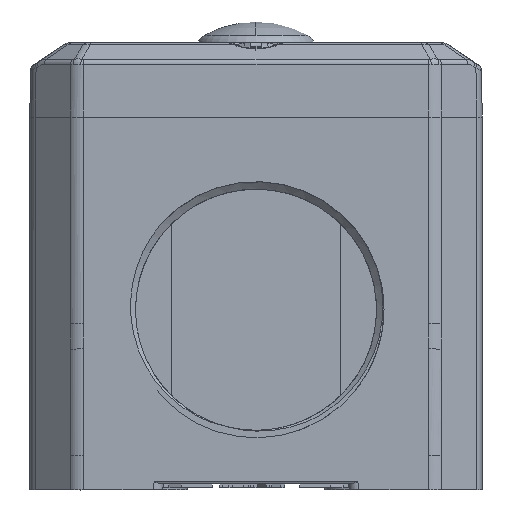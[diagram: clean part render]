
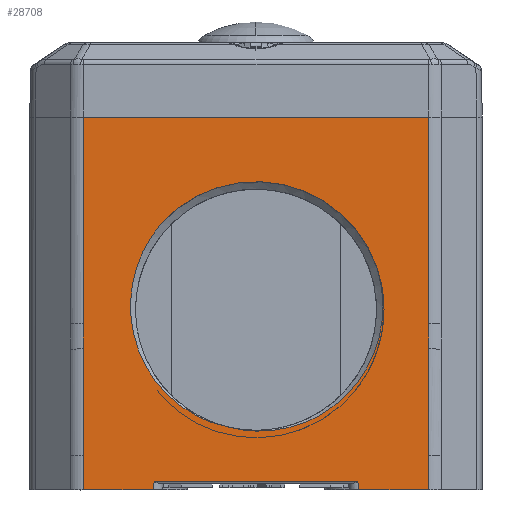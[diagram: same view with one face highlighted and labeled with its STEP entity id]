
A CAD part, front view. The second image highlights one B-rep face of the part: STEP entity #28708.
In plain terms, the highlighted planar face has unit normal (0, -1, 0).
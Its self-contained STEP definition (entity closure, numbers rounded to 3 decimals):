
#1551=DIRECTION('',(1.,0.,0.));
#1552=VECTOR('',#1551,5.626);
#1553=CARTESIAN_POINT('',(8.253,-66.5,-15.5));
#1554=LINE('',#1553,#1552);
#1600=DIRECTION('',(0.,0.,1.));
#1601=VECTOR('',#1600,2.763);
#1602=CARTESIAN_POINT('',(13.879,-66.5,-15.5));
#1603=LINE('',#1602,#1601);
#1604=DIRECTION('',(0.,0.,1.));
#1605=VECTOR('',#1604,8.626);
#1606=CARTESIAN_POINT('',(13.879,-66.5,
-12.737));
#1607=LINE('',#1606,#1605);
#1632=DIRECTION('',(-0.087,0.,0.996));
#1633=VECTOR('',#1632,0.703);
#1634=CARTESIAN_POINT('',(8.253,-66.5,-15.5));
#1635=LINE('',#1634,#1633);
#1636=DIRECTION('',(-0.087,0.,-0.996));
#1637=VECTOR('',#1636,0.703);
#1638=CARTESIAN_POINT('',(-8.192,-66.5,-14.8));
#1639=LINE('',#1638,#1637);
#1640=DIRECTION('',(0.,0.,1.));
#1641=VECTOR('',#1640,2.011);
#1642=CARTESIAN_POINT('',(-13.879,-66.5,
-4.111));
#1643=LINE('',#1642,#1641);
#1644=DIRECTION('',(0.,0.,1.));
#1645=VECTOR('',#1644,16.6);
#1646=CARTESIAN_POINT('',(-13.879,-66.5,
-2.1));
#1647=LINE('',#1646,#1645);
#1648=DIRECTION('',(1.,0.,0.));
#1649=VECTOR('',#1648,27.758);
#1650=CARTESIAN_POINT('',(-13.879,-66.5,
14.5));
#1651=LINE('',#1650,#1649);
#1652=DIRECTION('',(0.,0.,-1.));
#1653=VECTOR('',#1652,2.011);
#1654=CARTESIAN_POINT('',(13.879,-66.5,
-2.1));
#1655=LINE('',#1654,#1653);
#1656=CARTESIAN_POINT('',(0.,-66.5,-1.));
#1657=DIRECTION('',(0.,-1.,0.));
#1658=DIRECTION('',(0.953,0.,0.304));
#1659=AXIS2_PLACEMENT_3D('',#1656,#1657,#1658);
#4153=DIRECTION('',(0.,0.,1.));
#4154=VECTOR('',#4153,16.6);
#4155=CARTESIAN_POINT('',(13.879,-66.5,
-2.1));
#4156=LINE('',#4155,#4154);
#4212=DIRECTION('',(0.,0.,-1.));
#4213=VECTOR('',#4212,8.626);
#4214=CARTESIAN_POINT('',(-13.879,-66.5,
-4.111));
#4215=LINE('',#4214,#4213);
#4228=DIRECTION('',(0.,0.,-1.));
#4229=VECTOR('',#4228,2.763);
#4230=CARTESIAN_POINT('',(-13.879,-66.5,
-12.737));
#4231=LINE('',#4230,#4229);
#4246=DIRECTION('',(1.,0.,0.));
#4247=VECTOR('',#4246,5.626);
#4248=CARTESIAN_POINT('',(-13.879,-66.5,-15.5));
#4249=LINE('',#4248,#4247);
#12895=DIRECTION('',(1.,0.,0.));
#12896=VECTOR('',#12895,16.383);
#12897=CARTESIAN_POINT('',(-8.192,-66.5,-14.8));
#12898=LINE('',#12897,#12896);
#12899=CARTESIAN_POINT('',(8.192,-66.5,-14.8));
#18807=CARTESIAN_POINT('',(-2.065,-66.5,
-10.478));
#18808=CARTESIAN_POINT('',(-2.718,-66.5,
-10.355));
#18809=CARTESIAN_POINT('',(-4.009,-66.5,
-9.982));
#18810=CARTESIAN_POINT('',(-5.988,-66.5,
-8.901));
#18811=CARTESIAN_POINT('',(-7.681,-66.5,
-7.355));
#18812=CARTESIAN_POINT('',(-8.851,-66.5,
-5.694));
#18813=CARTESIAN_POINT('',(-9.7,-66.5,
-3.757));
#18814=CARTESIAN_POINT('',(-10.116,-66.5,
-1.703));
#18815=CARTESIAN_POINT('',(-10.101,-66.5,
0.354));
#18816=CARTESIAN_POINT('',(-9.714,-66.5,
2.261));
#18817=CARTESIAN_POINT('',(-8.911,-66.5,
4.19));
#18818=CARTESIAN_POINT('',(-8.103,-66.5,
5.369));
#18819=CARTESIAN_POINT('',(-7.619,-66.5,
5.931));
#18873=CARTESIAN_POINT('',(9.812,-66.5,
2.133));
#18874=CARTESIAN_POINT('',(10.009,-66.5,
1.45));
#18875=CARTESIAN_POINT('',(10.259,-66.5,
0.072));
#18876=CARTESIAN_POINT('',(10.199,-66.5,
-2.072));
#18877=CARTESIAN_POINT('',(9.699,-66.5,
-4.15));
#18878=CARTESIAN_POINT('',(8.745,-66.5,
-6.131));
#18879=CARTESIAN_POINT('',(7.401,-66.5,
-7.832));
#18880=CARTESIAN_POINT('',(5.802,-66.5,
-9.156));
#18881=CARTESIAN_POINT('',(3.983,-66.5,
-10.12));
#18882=CARTESIAN_POINT('',(1.975,-66.5,
-10.692));
#18883=CARTESIAN_POINT('',(-0.058,-66.5,
-10.829));
#18884=CARTESIAN_POINT('',(-1.398,-66.5,
-10.644));
#18885=CARTESIAN_POINT('',(-2.065,-66.5,
-10.478));
#22183=VERTEX_POINT('',#12899);
#22184=CARTESIAN_POINT('',(8.253,-66.5,-15.5));
#22185=VERTEX_POINT('',#22184);
#22186=CARTESIAN_POINT('',(-8.192,-66.5,-14.8));
#22187=VERTEX_POINT('',#22186);
#22188=CARTESIAN_POINT('',(13.879,-66.5,
-12.737));
#22189=CARTESIAN_POINT('',(13.879,-66.5,
-4.111));
#22190=VERTEX_POINT('',#22188);
#22191=VERTEX_POINT('',#22189);
#22192=CARTESIAN_POINT('',(13.879,-66.5,-15.5));
#22193=VERTEX_POINT('',#22192);
#22194=CARTESIAN_POINT('',(-8.253,-66.5,-15.5));
#22195=VERTEX_POINT('',#22194);
#22196=CARTESIAN_POINT('',(-13.879,-66.5,-15.5));
#22197=VERTEX_POINT('',#22196);
#22198=CARTESIAN_POINT('',(-13.879,-66.5,
-12.737));
#22199=VERTEX_POINT('',#22198);
#22200=CARTESIAN_POINT('',(-13.879,-66.5,
-4.111));
#22201=VERTEX_POINT('',#22200);
#22202=CARTESIAN_POINT('',(-13.879,-66.5,
-2.1));
#22203=VERTEX_POINT('',#22202);
#22204=CARTESIAN_POINT('',(-13.879,-66.5,
14.5));
#22205=VERTEX_POINT('',#22204);
#22206=CARTESIAN_POINT('',(13.879,-66.5,
14.5));
#22207=VERTEX_POINT('',#22206);
#22208=CARTESIAN_POINT('',(13.879,-66.5,
-2.1));
#22209=VERTEX_POINT('',#22208);
#22210=CARTESIAN_POINT('',(9.812,-66.5,2.133));
#22211=CARTESIAN_POINT('',(-7.619,-66.5,5.931));
#22212=VERTEX_POINT('',#22210);
#22213=VERTEX_POINT('',#22211);
#22214=VERTEX_POINT('',#18807);
#28668=CARTESIAN_POINT('',(-17.5,-66.5,-15.));
#28669=DIRECTION('',(0.,-1.,0.));
#28670=DIRECTION('',(1.,0.,0.));
#28671=AXIS2_PLACEMENT_3D('',#28668,#28669,#28670);
#28672=PLANE('',#28671);
#28673=ORIENTED_EDGE('',*,*,#28656,.F.);
#28674=ORIENTED_EDGE('',*,*,#28642,.F.);
#28675=ORIENTED_EDGE('',*,*,#28579,.F.);
#28677=ORIENTED_EDGE('',*,*,#28676,.T.);
#28679=ORIENTED_EDGE('',*,*,#28678,.F.);
#28681=ORIENTED_EDGE('',*,*,#28680,.T.);
#28683=ORIENTED_EDGE('',*,*,#28682,.F.);
#28685=ORIENTED_EDGE('',*,*,#28684,.F.);
#28687=ORIENTED_EDGE('',*,*,#28686,.F.);
#28689=ORIENTED_EDGE('',*,*,#28688,.T.);
#28691=ORIENTED_EDGE('',*,*,#28690,.T.);
#28693=ORIENTED_EDGE('',*,*,#28692,.T.);
#28695=ORIENTED_EDGE('',*,*,#28694,.F.);
#28697=ORIENTED_EDGE('',*,*,#28696,.T.);
#28698=EDGE_LOOP('',(#28673,#28674,#28675,#28677,#28679,#28681,#28683,#28685,
#28687,#28689,#28691,#28693,#28695,#28697));
#28699=FACE_OUTER_BOUND('',#28698,.F.);
#28701=ORIENTED_EDGE('',*,*,#28700,.T.);
#28703=ORIENTED_EDGE('',*,*,#28702,.F.);
#28705=ORIENTED_EDGE('',*,*,#28704,.F.);
#28706=EDGE_LOOP('',(#28701,#28703,#28705));
#28707=FACE_BOUND('',#28706,.F.);
#28708=ADVANCED_FACE('',(#28699,#28707),#28672,.T.);
#1660=CIRCLE('',#1659,10.3);
#18820=B_SPLINE_CURVE_WITH_KNOTS('',3,(#18807,#18808,#18809,#18810,#18811,
#18812,#18813,#18814,#18815,#18816,#18817,#18818,#18819),.UNSPECIFIED.,.F.,.F.,(
4,1,1,1,1,1,1,1,1,1,4),(0.,0.1,0.2,0.3,0.4,0.5,0.6,0.7,0.8,
0.9,1.),.UNSPECIFIED.);
#18886=B_SPLINE_CURVE_WITH_KNOTS('',3,(#18873,#18874,#18875,#18876,#18877,
#18878,#18879,#18880,#18881,#18882,#18883,#18884,#18885),.UNSPECIFIED.,.F.,.F.,(
4,1,1,1,1,1,1,1,1,1,4),(0.,0.1,0.2,0.3,0.4,0.5,0.6,0.7,0.8,
0.9,1.),.UNSPECIFIED.);
#28579=EDGE_CURVE('',#22185,#22193,#1554,.T.);
#28642=EDGE_CURVE('',#22193,#22190,#1603,.T.);
#28656=EDGE_CURVE('',#22190,#22191,#1607,.T.);
#28676=EDGE_CURVE('',#22185,#22183,#1635,.T.);
#28678=EDGE_CURVE('',#22187,#22183,#12898,.T.);
#28680=EDGE_CURVE('',#22187,#22195,#1639,.T.);
#28682=EDGE_CURVE('',#22197,#22195,#4249,.T.);
#28684=EDGE_CURVE('',#22199,#22197,#4231,.T.);
#28686=EDGE_CURVE('',#22201,#22199,#4215,.T.);
#28688=EDGE_CURVE('',#22201,#22203,#1643,.T.);
#28690=EDGE_CURVE('',#22203,#22205,#1647,.T.);
#28692=EDGE_CURVE('',#22205,#22207,#1651,.T.);
#28694=EDGE_CURVE('',#22209,#22207,#4156,.T.);
#28696=EDGE_CURVE('',#22209,#22191,#1655,.T.);
#28700=EDGE_CURVE('',#22212,#22213,#1660,.T.);
#28702=EDGE_CURVE('',#22214,#22213,#18820,.T.);
#28704=EDGE_CURVE('',#22212,#22214,#18886,.T.);
